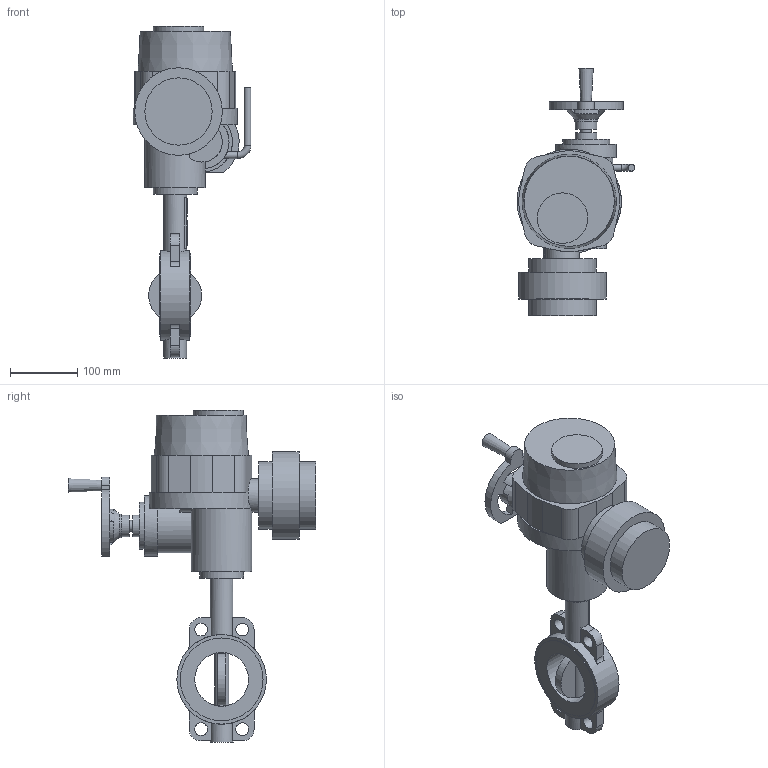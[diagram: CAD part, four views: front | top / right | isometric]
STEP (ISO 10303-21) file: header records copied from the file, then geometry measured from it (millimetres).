
FILE_DESCRIPTION(('STEP AP203'), '1');
FILE_NAME('青蜮铕 017W.ZS DN80+菹 QT.A005', '', ('UNSPECIFIED'), ('UNSPECIFIED'), 'ASCON STEP Converter 1.6', 'ASCON Math Kernel', '');
FILE_SCHEMA(('CONFIG_CONTROL_DESIGN'));
Length unit declared in the file: millimetre
Bounding box: 175 x 368 x 493 mm (x, y, z)
Volume: 4556484.4 mm3; surface area: 339410.2 mm2
Topology: 1 solids, 2 shells, 748 faces, 2135 edges, 1375 vertices
Faces by surface type: cylinder 516, plane 228, cone 3, torus 1
Full cylindrical faces by diameter (mm): 6.7 x8, 8 x4, 10 x2, 12.6 x1, 16 x1, 19 x4, 20 x1, 21 x1, 32 x2, 34 x2, 35 x2, 50 x1, 65 x1, 70 x1, 75 x1, 80 x1, 90 x2, 100 x2, 123 x2, 130 x1, 133 x1
Entity records: 31982 total; most frequent: CARTESIAN_POINT 5562, DIRECTION 4672, ORIENTED_EDGE 4119, EDGE_CURVE 2091, AXIS2_PLACEMENT_3D 1860, VERTEX_POINT 1375, CIRCLE 1111, LINE 952
